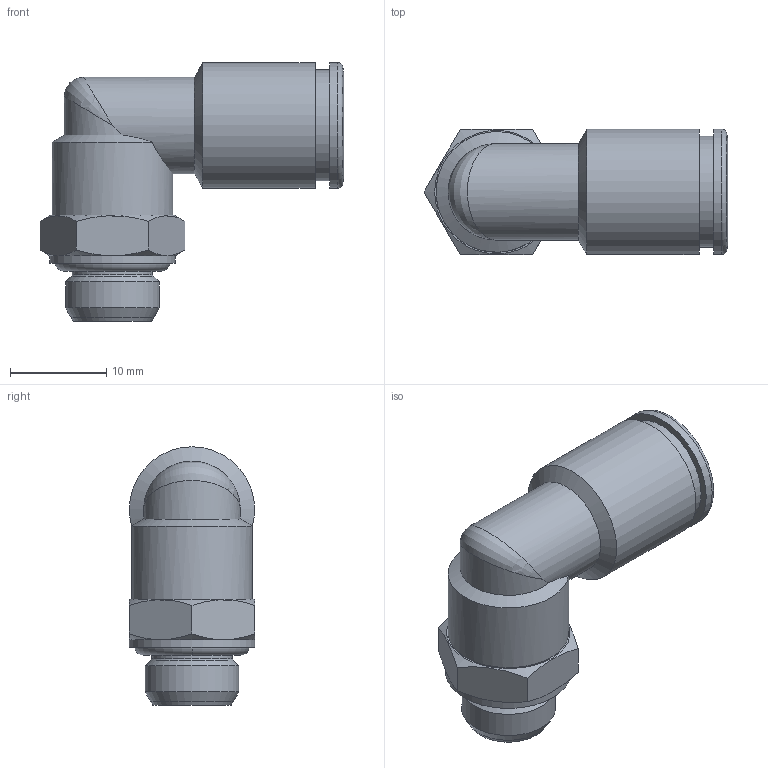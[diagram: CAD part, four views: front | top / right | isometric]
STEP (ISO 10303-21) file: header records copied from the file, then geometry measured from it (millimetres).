
FILE_DESCRIPTION(('Bauteilbeschreibung','HiCAD-Model','HiCAD-STEP-TRANSLATION','Bauteilbeschreibung'),'2;1');
FILE_NAME('B:/ABGLEICH/ZEICHNUNGEN/STEP FÜR INTERNET/STEP/202205_IPSO_022_8_1-8.STP','2011-09-16T08:43:02+00:00',('Konstrukteur'),('Konstrukteur Firma GmbH'),' HiCAD neXt 2008, Step 3.1.1401.2J ','HiCAD neXt 2008','confidential');
FILE_SCHEMA(('AUTOMOTIVE_DESIGN { 1 2 10303 214 0 1 1 1 }'));
Length unit declared in the file: millimetre
Products named in the file (7): A02205_IPSO_022_8_1_8; OR 7_2X1_9; A14602_N2_GEW___1_8_1_8; A146020N20GEW0001080108; G 1_8; DR8_1_NEU; R202205_N1_N2
Assembly tree (6 placements, depth 3):
  A02205_IPSO_022_8_1_8
    OR 7_2X1_9
    A14602_N2_GEW___1_8_1_8
    A146020N20GEW0001080108
      G 1_8
    DR8_1_NEU
    R202205_N1_N2
Bounding box: 31.51 x 13 x 26.8 mm (x, y, z)
Volume: 2857.7 mm3; surface area: 4419.1 mm2
Topology: 5 solids, 5 shells, 78 faces, 169 edges, 101 vertices
Faces by surface type: cone 28, cylinder 23, plane 19, torus 7, bspline 1
Full cylindrical faces by diameter (mm): 5.5 x1, 7 x1, 8.1 x1, 8.2 x1, 8.3 x1, 8.566 x2, 9 x2, 9.728 x1, 10 x1, 10.1 x3, 11 x1, 11.5 x1, 11.6 x1, 12.5 x1, 13 x3
Entity records: 3802 total; most frequent: CARTESIAN_POINT 1717, DIRECTION 334, ORIENTED_EDGE 226, AXIS2_PLACEMENT_3D 163, EDGE_LOOP 133, EDGE_CURVE 113, COLOUR_RGB 97, PRESENTATION_STYLE_ASSIGNMENT 97
